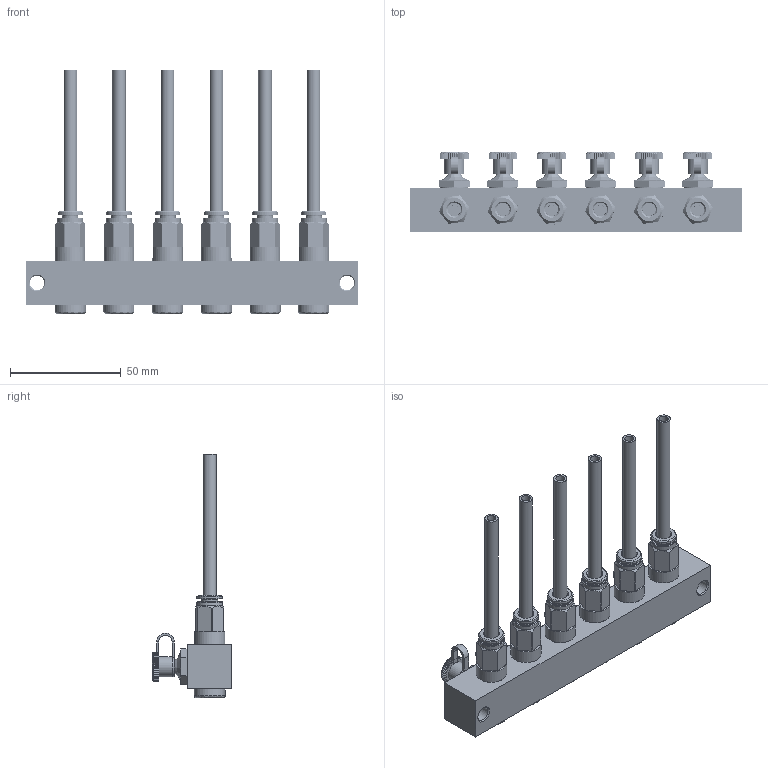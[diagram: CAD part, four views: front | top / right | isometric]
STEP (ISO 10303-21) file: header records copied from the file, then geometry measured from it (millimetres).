
FILE_DESCRIPTION (( 'STEP AP214' ), '1' );
FILE_NAME ('1460_0106_HD.STEP', '2026-01-26T13:40:00', ( '' ), ( '' ), 'SwSTEP 2.0', 'SolidWorks 2022', '' );
FILE_SCHEMA (( 'AUTOMOTIVE_DESIGN' ));
Length unit declared in the file: millimetre
Products named in the file (14): RIVOLUZIONE_0_2; Lasche_Staubkappe; Schmiernippel_Staubkappe; OR 7.66X1.78_1; Staubkappe_Fettnippel; DR6-C_HDX_25.07.16_1; Staubkappe; 1460_01_06_ASL-06; H200139_HDS01_6_M10X1_08.05.17; 1460_steckverscgraubung_Rohr 6x1; POLY_6_4_Bogen_2; schmiernippel_M10_1; 1460_0106_HD; 749-M10X1-A
Assembly tree (28 placements, depth 4):
  1460_0106_HD
    1460_01_06_ASL-06
    Schmiernippel_Staubkappe  x6
      schmiernippel_M10_1
      Staubkappe_Fettnippel
        Lasche_Staubkappe
        Staubkappe
    749-M10X1-A  x6
    1460_steckverscgraubung_Rohr 6x1  x6
      POLY_6_4_Bogen_2
      H200139_HDS01_6_M10X1_08.05.17
        OR 7.66X1.78_1
        DR6-C_HDX_25.07.16_1
        RIVOLUZIONE_0_2
Bounding box: 150 x 36 x 110.1 mm (x, y, z)
Volume: 78184.4 mm3; surface area: 68353.7 mm2
Topology: 43 solids, 55 shells, 1670 faces, 4432 edges, 2932 vertices
Faces by surface type: plane 1038, bspline 256, cylinder 240, cone 136
Full cylindrical faces by diameter (mm): 1.5 x6, 4 x6, 4.2 x6, 5 x6, 6 x12, 6.2 x6, 6.3 x6, 6.495 x6, 6.5 x2, 7.2 x6, 8.4 x6, 8.5 x6, 9 x6, 9.9 x6, 10 x24, 10.3 x6, 11.5 x6, 11.7 x6, 11.9 x6, 13.7 x6, 14 x6
Entity records: 75656 total; most frequent: CARTESIAN_POINT 64287, ORIENTED_EDGE 2593, DIRECTION 1361, EDGE_CURVE 1298, VERTEX_POINT 896, EDGE_LOOP 598, FACE_OUTER_BOUND 520, AXIS2_PLACEMENT_3D 497
